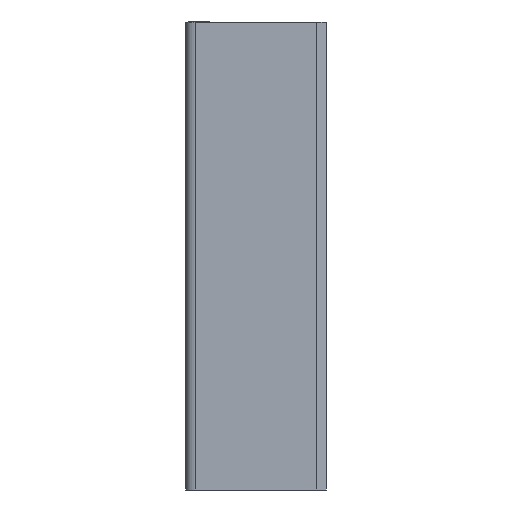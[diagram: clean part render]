
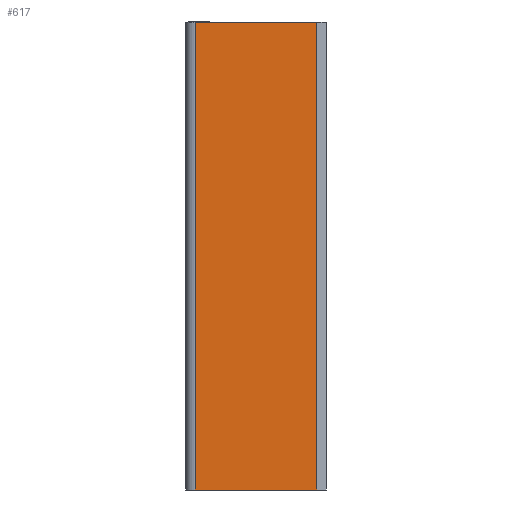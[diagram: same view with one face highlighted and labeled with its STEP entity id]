
A CAD part, left-side view. The second image highlights one B-rep face of the part: STEP entity #617.
In plain terms, the highlighted planar face has unit normal (-1, 0, 0).
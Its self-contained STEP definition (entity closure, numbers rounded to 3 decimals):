
#97=CARTESIAN_POINT('Line Origine',(0.,22.5,0.)) ;
#101=CARTESIAN_POINT('Vertex',(0.,42.,0.)) ;
#103=CARTESIAN_POINT('Vertex',(0.,3.,0.)) ;
#520=CARTESIAN_POINT('Line Origine',(0.,22.5,-150.)) ;
#524=CARTESIAN_POINT('Vertex',(0.,42.,-150.)) ;
#526=CARTESIAN_POINT('Vertex',(0.,3.,-150.)) ;
#596=CARTESIAN_POINT('Axis2P3D Location',(0.,42.,-150.)) ;
#601=CARTESIAN_POINT('Line Origine',(0.,42.,-75.)) ;
#606=CARTESIAN_POINT('Line Origine',(0.,3.,-75.)) ;
#98=DIRECTION('Vector Direction',(0.,-1.,0.)) ;
#521=DIRECTION('Vector Direction',(0.,-1.,0.)) ;
#597=DIRECTION('Axis2P3D Direction',(-1.,0.,0.)) ;
#598=DIRECTION('Axis2P3D XDirection',(0.,0.,1.)) ;
#602=DIRECTION('Vector Direction',(0.,0.,1.)) ;
#607=DIRECTION('Vector Direction',(0.,0.,1.)) ;
#599=AXIS2_PLACEMENT_3D('Plane Axis2P3D',#596,#597,#598) ;
#612=ORIENTED_EDGE('',*,*,#105,.F.) ;
#613=ORIENTED_EDGE('',*,*,#605,.F.) ;
#614=ORIENTED_EDGE('',*,*,#528,.T.) ;
#615=ORIENTED_EDGE('',*,*,#610,.T.) ;
#99=VECTOR('Line Direction',#98,1.) ;
#522=VECTOR('Line Direction',#521,1.) ;
#603=VECTOR('Line Direction',#602,1.) ;
#608=VECTOR('Line Direction',#607,1.) ;
#617=ADVANCED_FACE('A935-15017045',(#616),#600,.T.) ;
#105=EDGE_CURVE('',#102,#104,#100,.T.) ;
#528=EDGE_CURVE('',#525,#527,#523,.T.) ;
#605=EDGE_CURVE('',#525,#102,#604,.T.) ;
#610=EDGE_CURVE('',#527,#104,#609,.T.) ;
#611=EDGE_LOOP('',(#612,#613,#614,#615)) ;
#616=FACE_OUTER_BOUND('',#611,.T.) ;
#100=LINE('Line',#97,#99) ;
#523=LINE('Line',#520,#522) ;
#604=LINE('Line',#601,#603) ;
#609=LINE('Line',#606,#608) ;
#600=PLANE('Plane',#599) ;
#102=VERTEX_POINT('',#101) ;
#104=VERTEX_POINT('',#103) ;
#525=VERTEX_POINT('',#524) ;
#527=VERTEX_POINT('',#526) ;
